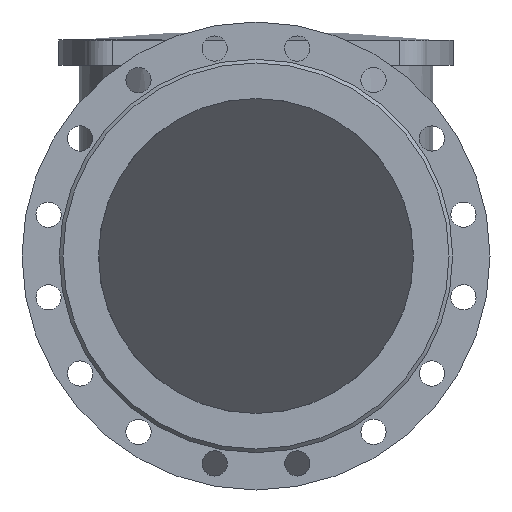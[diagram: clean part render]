
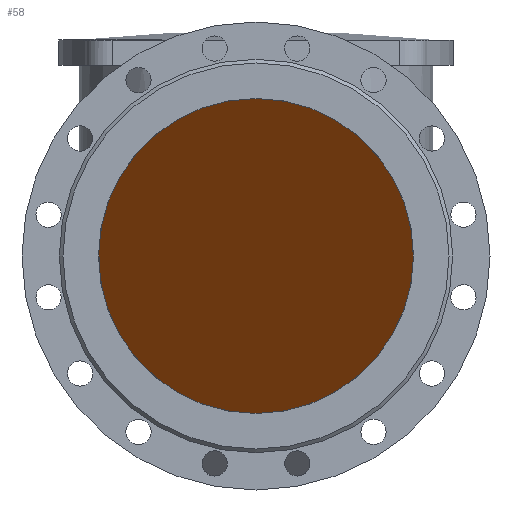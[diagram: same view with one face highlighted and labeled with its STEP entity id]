
A CAD part, front view. The second image highlights one B-rep face of the part: STEP entity #58.
In plain terms, the highlighted planar face has unit normal (0, -0.707, -0.707).
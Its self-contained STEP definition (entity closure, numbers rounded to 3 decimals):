
#58=ADVANCED_FACE('',(#806),#808,.T.);
#806=FACE_BOUND('',#807,.T.);
#807=EDGE_LOOP('',(#2809));
#808=PLANE('',#809);
#809=AXIS2_PLACEMENT_3D('',#810,#811,#812);
#810=CARTESIAN_POINT('',(-260.,-232.471,232.471));
#811=DIRECTION('',(0.,-0.707,-0.707));
#812=DIRECTION('',(0.,0.707,-0.707));
#2809=ORIENTED_EDGE('',*,*,#3142,.T.);
#3142=EDGE_CURVE('',#3305,#3305,#3306,.F.);
#3305=VERTEX_POINT('',#3596);
#3306=(BOUNDED_CURVE()B_SPLINE_CURVE(3,
(#3597,#3598,#3599,#3600,#3601,#3602,#3603),
.UNSPECIFIED.,.T.,.F.)B_SPLINE_CURVE_WITH_KNOTS((4,3,4),
(0.,0.5,1.),
.UNSPECIFIED.)CURVE()GEOMETRIC_REPRESENTATION_ITEM()RATIONAL_B_SPLINE_CURVE((1.,
0.333,0.333,1.,0.333,0.333,1.))
REPRESENTATION_ITEM(''));
#3596=CARTESIAN_POINT('',(0.,-175.,175.));
#3597=CARTESIAN_POINT('',(0.,-175.,175.));
#3598=CARTESIAN_POINT('',(350.,-175.,175.));
#3599=CARTESIAN_POINT('',(350.,175.,-175.));
#3600=CARTESIAN_POINT('',(0.,175.,-175.));
#3601=CARTESIAN_POINT('',(-350.,175.,-175.));
#3602=CARTESIAN_POINT('',(-350.,-175.,175.));
#3603=CARTESIAN_POINT('',(0.,-175.,175.));
